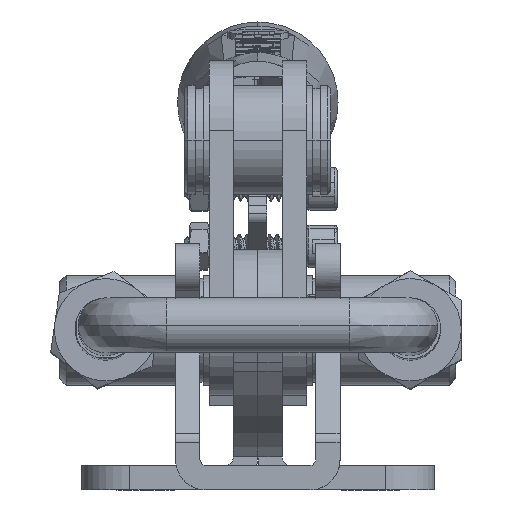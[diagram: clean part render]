
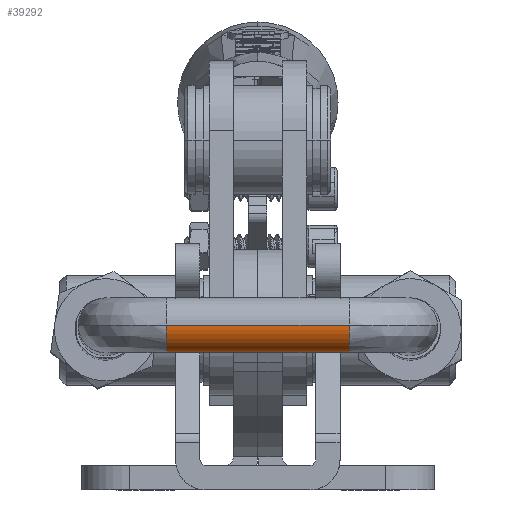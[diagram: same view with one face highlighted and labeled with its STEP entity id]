
A CAD part, left-side view. The second image highlights one B-rep face of the part: STEP entity #39292.
In plain terms, the highlighted cylindrical face has radius 4.5 mm (diameter 9 mm), a partial arc.
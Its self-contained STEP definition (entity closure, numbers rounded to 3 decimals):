
#7640 = CIRCLE ( 'NONE', #38558, 4.5 ) ;
#7885 = CARTESIAN_POINT ( 'NONE',  ( 0., 0., -15. ) ) ;
#7951 = VERTEX_POINT ( 'NONE', #39411 ) ;
#8231 = CARTESIAN_POINT ( 'NONE',  ( -4.5, 0., 15. ) ) ;
#9252 = DIRECTION ( 'NONE',  ( 0., 0., 1. ) ) ;
#11763 = DIRECTION ( 'NONE',  ( 0., 0., -1. ) ) ;
#12430 = CARTESIAN_POINT ( 'NONE',  ( -4.5, 0., -15. ) ) ;
#12706 = EDGE_LOOP ( 'NONE', ( #21862, #27520, #43976, #39569 ) ) ;
#15083 = VECTOR ( 'NONE', #19942, 1000. ) ;
#16039 = FACE_OUTER_BOUND ( 'NONE', #12706, .T. ) ;
#16734 = CARTESIAN_POINT ( 'NONE',  ( 4.5, 0., -15. ) ) ;
#18771 = DIRECTION ( 'NONE',  ( 1., 0., 0. ) ) ;
#19942 = DIRECTION ( 'NONE',  ( 0., 0., 1. ) ) ;
#20153 = CARTESIAN_POINT ( 'NONE',  ( 0., 0., -15. ) ) ;
#21862 = ORIENTED_EDGE ( 'NONE', *, *, #38416, .F. ) ;
#22620 = CARTESIAN_POINT ( 'NONE',  ( 0., 0., 15. ) ) ;
#22882 = LINE ( 'NONE', #37622, #36855 ) ;
#23863 = AXIS2_PLACEMENT_3D ( 'NONE', #7885, #11763, #33758 ) ;
#24491 = DIRECTION ( 'NONE',  ( 1., 0., 0. ) ) ;
#26031 = DIRECTION ( 'NONE',  ( 0., 0., 1. ) ) ;
#27520 = ORIENTED_EDGE ( 'NONE', *, *, #44690, .F. ) ;
#27657 = LINE ( 'NONE', #42401, #15083 ) ;
#28489 = EDGE_CURVE ( 'NONE', #42663, #7951, #27657, .T. ) ;
#29254 = CIRCLE ( 'NONE', #23863, 4.5 ) ;
#31736 = CYLINDRICAL_SURFACE ( 'NONE', #34592, 4.5 ) ;
#33758 = DIRECTION ( 'NONE',  ( -1., 0., 0. ) ) ;
#34592 = AXIS2_PLACEMENT_3D ( 'NONE', #20153, #9252, #24491 ) ;
#36855 = VECTOR ( 'NONE', #26031, 1000. ) ;
#37622 = CARTESIAN_POINT ( 'NONE',  ( -4.5, 0., -15. ) ) ;
#38416 = EDGE_CURVE ( 'NONE', #41341, #39835, #22882, .T. ) ;
#38558 = AXIS2_PLACEMENT_3D ( 'NONE', #22620, #44629, #18771 ) ;
#39292 = ADVANCED_FACE ( 'NONE', ( #16039 ), #31736, .T. ) ;
#39411 = CARTESIAN_POINT ( 'NONE',  ( 4.5, 0., 15. ) ) ;
#39569 = ORIENTED_EDGE ( 'NONE', *, *, #45619, .T. ) ;
#39835 = VERTEX_POINT ( 'NONE', #8231 ) ;
#41341 = VERTEX_POINT ( 'NONE', #12430 ) ;
#42401 = CARTESIAN_POINT ( 'NONE',  ( 4.5, 0., -15. ) ) ;
#42663 = VERTEX_POINT ( 'NONE', #16734 ) ;
#43976 = ORIENTED_EDGE ( 'NONE', *, *, #28489, .T. ) ;
#44629 = DIRECTION ( 'NONE',  ( 0., 0., -1. ) ) ;
#44690 = EDGE_CURVE ( 'NONE', #42663, #41341, #29254, .T. ) ;
#45619 = EDGE_CURVE ( 'NONE', #7951, #39835, #7640, .T. ) ;
